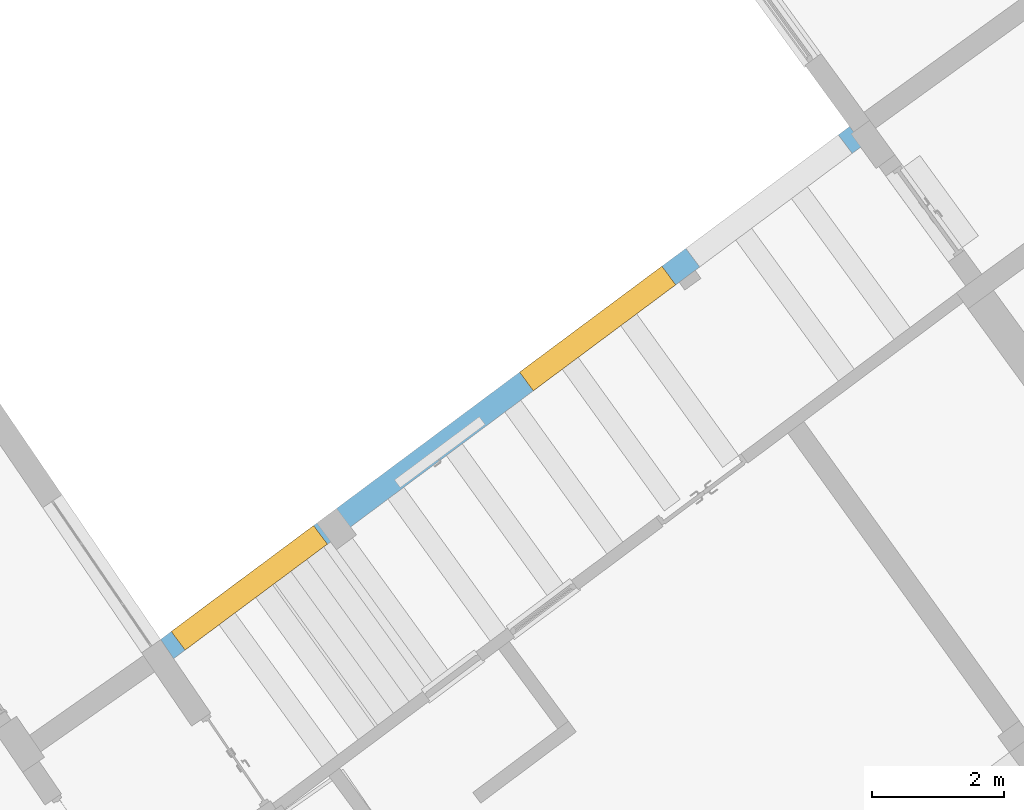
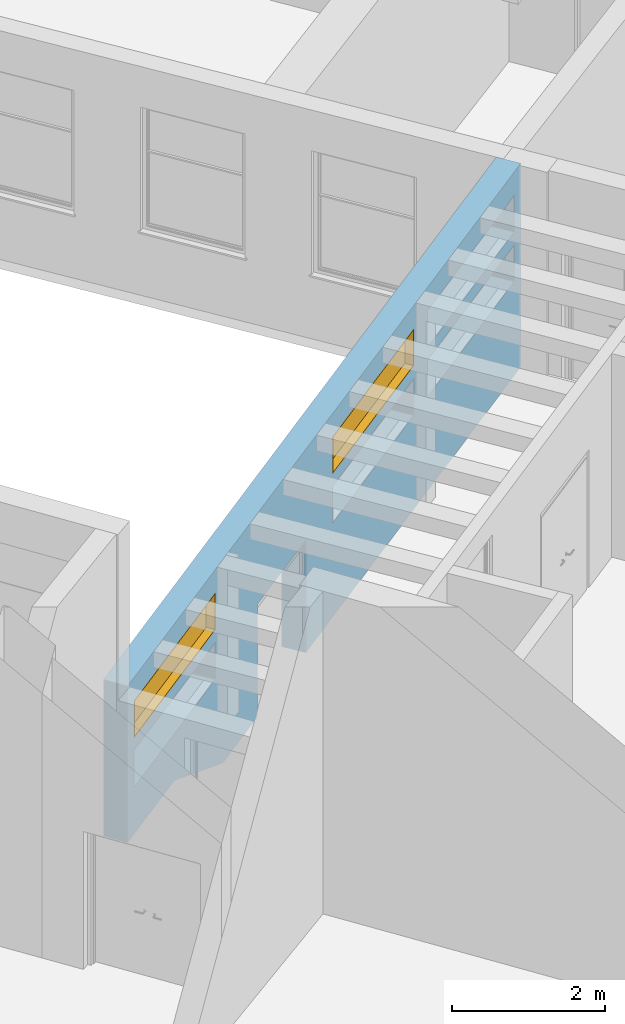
# One storey, part 142 of 157: 2 windows, 7 openings, plus 1 element that does not belong to this part.
"""IFC2X3 building model written with IfcOpenShell, lengths in millimetres."""

from ifc_helpers import new_model, entity, si_unit, converted_unit, derived_unit, direction, frame, frame_2d, origin, origin_2d_with_axis, place, context, subcontext, project, spatial, polyline, rectangle, outline, extrude, faceted_brep, source, transform, mapped, material, material_list, layer, layer_set, type_object, type_shapes, element, fill, save


model = new_model("IFC2X3")

# Units and contexts
model_context = context("Model", 3, precision=0.01, world=origin(), true_north=direction((6.123031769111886e-17, 1.0)))
body_context = subcontext(model_context, "Body", "Model", "MODEL_VIEW")
ifc_project = project(units=[si_unit("LENGTHUNIT", "METRE", prefix="MILLI"), si_unit("AREAUNIT", "SQUARE_METRE"), si_unit("VOLUMEUNIT", "CUBIC_METRE"), converted_unit("PLANEANGLEUNIT", "DEGREE", entity("IfcRatioMeasure", 0.017453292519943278), si_unit("PLANEANGLEUNIT", "RADIAN"), dimensions=[0, 0, 0, 0, 0, 0, 0]), si_unit("MASSUNIT", "GRAM", prefix="KILO"), derived_unit("MASSDENSITYUNIT", [(si_unit("MASSUNIT", "GRAM", prefix="KILO"), 1), (si_unit("LENGTHUNIT", "METRE"), -3)]), derived_unit("MOMENTOFINERTIAUNIT", [(si_unit("LENGTHUNIT", "METRE"), 4)]), si_unit("TIMEUNIT", "SECOND"), si_unit("FREQUENCYUNIT", "HERTZ"), si_unit("THERMODYNAMICTEMPERATUREUNIT", "DEGREE_CELSIUS"), derived_unit("THERMALTRANSMITTANCEUNIT", [(si_unit("MASSUNIT", "GRAM", prefix="KILO"), 1), (si_unit("THERMODYNAMICTEMPERATUREUNIT", "KELVIN"), -1), (si_unit("TIMEUNIT", "SECOND"), -3)]), derived_unit("THERMALCONDUCTANCEUNIT", [(si_unit("MASSUNIT", "GRAM", prefix="KILO"), 1), (si_unit("LENGTHUNIT", "METRE"), 1), (si_unit("THERMODYNAMICTEMPERATUREUNIT", "KELVIN"), -1), (si_unit("TIMEUNIT", "SECOND"), -3)]), derived_unit("VOLUMETRICFLOWRATEUNIT", [(si_unit("LENGTHUNIT", "METRE"), 3), (si_unit("TIMEUNIT", "SECOND"), -1)]), derived_unit("MASSFLOWRATEUNIT", [(si_unit("MASSUNIT", "GRAM", prefix="KILO"), 1), (si_unit("TIMEUNIT", "SECOND"), -1)]), derived_unit("ROTATIONALFREQUENCYUNIT", [(si_unit("TIMEUNIT", "SECOND"), -1)]), si_unit("ELECTRICCURRENTUNIT", "AMPERE"), si_unit("ELECTRICVOLTAGEUNIT", "VOLT"), si_unit("POWERUNIT", "WATT"), converted_unit("FORCEUNIT", "KIP", entity("IfcRatioMeasure", 2.088543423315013e-05), si_unit("FORCEUNIT", "NEWTON"), dimensions=[1, 1, -2, 0, 0, 0, 0]), si_unit("ILLUMINANCEUNIT", "LUX"), si_unit("LUMINOUSFLUXUNIT", "LUMEN"), si_unit("LUMINOUSINTENSITYUNIT", "CANDELA"), derived_unit("USERDEFINED", [(si_unit("MASSUNIT", "GRAM", prefix="KILO"), -1), (si_unit("LENGTHUNIT", "METRE"), -2), (si_unit("TIMEUNIT", "SECOND"), 3), (si_unit("LUMINOUSFLUXUNIT", "LUMEN"), 1)]), derived_unit("USERDEFINED", [(si_unit("MASSUNIT", "GRAM", prefix="KILO"), 1), (si_unit("LENGTHUNIT", "METRE"), 3), (si_unit("TIMEUNIT", "SECOND"), -3), (si_unit("ELECTRICCURRENTUNIT", "AMPERE"), -2)]), derived_unit("USERDEFINED", [(si_unit("LENGTHUNIT", "METRE"), 2), (si_unit("TIMEUNIT", "SECOND"), -2)]), derived_unit("SOUNDPOWERUNIT", [(si_unit("MASSUNIT", "GRAM", prefix="KILO"), 1), (si_unit("LENGTHUNIT", "METRE"), 2), (si_unit("TIMEUNIT", "SECOND"), -3)]), derived_unit("SOUNDPRESSUREUNIT", [(si_unit("MASSUNIT", "GRAM", prefix="KILO"), 1), (si_unit("LENGTHUNIT", "METRE"), -1), (si_unit("TIMEUNIT", "SECOND"), -2)]), derived_unit("LINEARVELOCITYUNIT", [(si_unit("LENGTHUNIT", "METRE"), 1), (si_unit("TIMEUNIT", "SECOND"), -1)]), si_unit("PRESSUREUNIT", "PASCAL"), derived_unit("USERDEFINED", [(si_unit("LENGTHUNIT", "METRE"), -2), (si_unit("MASSUNIT", "GRAM", prefix="KILO"), 1), (si_unit("TIMEUNIT", "SECOND"), -2)]), derived_unit("LINEARFORCEUNIT", [(si_unit("MASSUNIT", "GRAM", prefix="KILO"), 1), (si_unit("LENGTHUNIT", "METRE"), 1), (si_unit("TIMEUNIT", "SECOND"), -2), (si_unit("LENGTHUNIT", "METRE"), -1)]), derived_unit("PLANARFORCEUNIT", [(si_unit("MASSUNIT", "GRAM", prefix="KILO"), 1), (si_unit("LENGTHUNIT", "METRE"), 1), (si_unit("TIMEUNIT", "SECOND"), -2), (si_unit("LENGTHUNIT", "METRE"), -2)]), derived_unit("SPECIFICHEATCAPACITYUNIT", [(si_unit("LENGTHUNIT", "METRE"), 2), (si_unit("TIMEUNIT", "SECOND"), -2), (si_unit("THERMODYNAMICTEMPERATUREUNIT", "KELVIN"), -1)]), derived_unit("VAPORPERMEABILITYUNIT", [(si_unit("TIMEUNIT", "SECOND"), 1), (si_unit("LENGTHUNIT", "METRE"), -1)]), derived_unit("DYNAMICVISCOSITYUNIT", [(si_unit("MASSUNIT", "GRAM", prefix="KILO"), 1), (si_unit("LENGTHUNIT", "METRE"), -1), (si_unit("TIMEUNIT", "SECOND"), -1)]), derived_unit("THERMALEXPANSIONCOEFFICIENTUNIT", [(si_unit("THERMODYNAMICTEMPERATUREUNIT", "KELVIN"), -1)])], contexts=[model_context])

# Site, building, storey
site_placement = place(None, frame((0.0, 0.0, 0.0), z_axis=(0.0, 0.0, 1.0), x_axis=(0.8191520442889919, 0.5735764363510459, 0.0)))
site = spatial("IfcSite", under=ifc_project, at=site_placement, Name="Default", CompositionType="ELEMENT")
building_placement = place(site_placement, origin())
building = spatial("IfcBuilding", under=site, at=building_placement, CompositionType="ELEMENT")
storey_placement = place(building_placement, origin())
storey = spatial("IfcBuildingStorey", under=building, at=storey_placement, Name="1.EG +0.00", CompositionType="ELEMENT", Elevation=-4.331468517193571e-12)

# Wall, openings, windows
ifc_material_1 = material(Name="Analytical Wall Surface_CJC")
ifc_layer = layer(ifc_material_1, 350.0)
ifc_layer_set = layer_set([ifc_layer], Name="Basic Wall:Wand_Innen_35")
wall_type = type_object("IfcWallType", Name="Basic Wall:Wand_Innen_35", PredefinedType="STANDARD", material=ifc_layer_set)
wall_placement = place(storey_placement, frame((-204101.05348576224, 166996.005670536, -750.0), z_axis=(0.0, 0.0, 1.0), x_axis=(0.9995749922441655, 0.029151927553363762, 0.0)))
wall = element("IfcWall", 1, at=wall_placement, inside=storey, type_object=wall_type, Name="Basic Wall:Wand_Innen_35", ObjectType="Basic Wall:Wand_Innen_35", context=body_context, shape_type="Brep", body=[
    faceted_brep([(12984.138347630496, -175.0, 0.0), (12984.138347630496, -175.0, 3250.0), (11930.363742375, -175.0, 3250.0), (11630.346839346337, -175.0, 3250.0), (10880.30458177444, -175.0, 3250.0), (10580.287678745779, -175.0, 3250.0), (9815.893972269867, -175.0, 3250.0), (9515.854710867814, -175.0, 3250.0), (8715.750013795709, -175.0, 3250.0), (8415.710752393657, -175.0, 3250.0), (7615.606055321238, -175.0, 3250.0), (7315.566793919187, -175.0, 3250.0), (6533.797199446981, -175.0, 3250.0), (6233.757938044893, -175.0, 3250.0), (5433.653240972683, -175.0, 3250.0), (5133.613979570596, -175.0, 3250.0), (4333.509282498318, -175.0, 3250.0), (4033.4700210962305, -175.0, 3250.0), (3255.528447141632, -175.0, 3250.0), (2955.5004618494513, -175.0, 3250.0), (2205.5288961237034, -175.0, 3250.0), (1905.500757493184, -175.0, 3250.0), (1155.3068251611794, -175.0, 3250.0), (855.2816970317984, -175.0, 3250.0), (0.0, -175.0, 3250.0), (0.0, -175.0, 750.0), (1550.1638463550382, -175.0, 750.0), (3145.5153249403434, -175.0, 0.0), (4284.138347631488, -175.0, 0.0), (4284.138347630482, -175.0, 1800.0), (5884.138347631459, -175.0, 1800.0), (5884.138347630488, -175.0, 0.0), (9515.854710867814, -175.0, 0.0), (9815.893972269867, -175.0, 0.0), (2895.1186250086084, -175.0, 2090.0), (2895.1186250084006, -175.0, 1500.0), (215.11862500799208, -175.0, 1500.0), (215.11862500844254, -175.0, 2090.0), (9451.157462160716, -175.0, 2090.0), (9451.157462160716, -175.0, 1500.0), (6771.157462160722, -175.0, 1500.0), (6771.157462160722, -175.0, 2090.0), (12771.942690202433, -175.0, 2090.0), (12771.942690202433, -175.0, 1500.0), (9901.942690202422, -175.0, 1500.0), (9901.942690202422, -175.0, 2090.0), (12771.942690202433, -175.0, 2880.0), (12771.942690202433, -175.0, 2290.0), (9901.942690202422, -175.0, 2290.0), (9901.942690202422, -175.0, 2880.0), (9451.157462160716, -175.0, 2880.0), (9451.157462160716, -175.0, 2290.0), (6771.157462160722, -175.0, 2290.0), (6771.157462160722, -175.0, 2880.0), (2895.1186250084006, -175.0, 2880.0), (2895.1186250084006, -175.0, 2290.0), (215.1186250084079, -175.0, 2290.0), (215.1186250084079, -175.0, 2880.0), (12984.138347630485, 175.0, 3250.0), (12984.138347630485, 175.0, 0.0), (5884.138347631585, 175.0, 0.0), (5884.138347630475, 175.0, 1800.0), (4284.138347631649, 175.0, 1800.0), (4284.13834763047, 175.0, 0.0), (3145.515324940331, 175.0, 0.0), (1550.1638463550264, 175.0, 750.0), (14.668675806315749, 175.0, 750.0), (14.668675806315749, 175.0, 3250.0), (2895.118625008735, 175.0, 1500.0), (2895.118625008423, 175.0, 2090.0), (215.11862500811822, 175.0, 2090.0), (215.1186250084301, 175.0, 1500.0), (9451.157462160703, 175.0, 1500.0), (9451.157462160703, 175.0, 2090.0), (6771.15746216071, 175.0, 2090.0), (6771.15746216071, 175.0, 1500.0), (12771.942690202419, 175.0, 1500.0), (12771.942690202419, 175.0, 2090.0), (9901.94269020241, 175.0, 2090.0), (9901.94269020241, 175.0, 1500.0), (12771.942690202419, 175.0, 2290.0), (12771.942690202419, 175.0, 2880.0), (9901.94269020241, 175.0, 2880.0), (9901.94269020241, 175.0, 2290.0), (9451.157462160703, 175.0, 2290.0), (9451.157462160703, 175.0, 2880.0), (6771.15746216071, 175.0, 2880.0), (6771.15746216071, 175.0, 2290.0), (2895.1186250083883, 175.0, 2290.0), (2895.1186250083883, 175.0, 2880.0), (215.11862500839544, 175.0, 2880.0), (215.11862500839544, 175.0, 2290.0)], [[[0, 1, 2, 3, 4, 5, 6, 7, 8, 9, 10, 11, 12, 13, 14, 15, 16, 17, 18, 19, 20, 21, 22, 23, 24, 25, 26, 27, 28, 29, 30, 31, 32, 33], [34, 35, 36, 37], [38, 39, 40, 41], [42, 43, 44, 45], [46, 47, 48, 49], [50, 51, 52, 53], [54, 55, 56, 57]], [[58, 59, 60, 61, 62, 63, 64, 65, 66, 67], [68, 69, 70, 71], [72, 73, 74, 75], [76, 77, 78, 79], [80, 81, 82, 83], [84, 85, 86, 87], [88, 89, 90, 91]], [[25, 24, 67, 66]], [[27, 64, 63, 28]], [[1, 0, 59, 58]], [[24, 23, 22, 21, 20, 19, 18, 17, 16, 15, 14, 13, 12, 11, 10, 9, 8, 7, 6, 5, 4, 3, 2, 1, 58, 67]], [[26, 25, 66, 65]], [[27, 26, 65, 64]], [[62, 29, 28, 63]], [[29, 62, 61, 30]], [[30, 61, 60, 31]], [[68, 35, 34, 69]], [[69, 34, 37, 70]], [[70, 37, 36, 71]], [[35, 68, 71, 36]], [[73, 72, 39, 38]], [[74, 73, 38, 41]], [[75, 74, 41, 40]], [[72, 75, 40, 39]], [[77, 76, 43, 42]], [[78, 77, 42, 45]], [[79, 78, 45, 44]], [[76, 79, 44, 43]], [[81, 80, 47, 46]], [[82, 81, 46, 49]], [[83, 82, 49, 48]], [[80, 83, 48, 47]], [[85, 84, 51, 50]], [[86, 85, 50, 53]], [[87, 86, 53, 52]], [[84, 87, 52, 51]], [[89, 88, 55, 54]], [[90, 89, 54, 57]], [[91, 90, 57, 56]], [[88, 91, 56, 55]], [[59, 0, 33, 32, 31, 60]]]),
])
opening_1_placement = place(wall_placement, frame((5884.138347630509, 175.0, -400.0)))
element("IfcOpeningElement", 2, at=opening_1_placement, cuts=wall, Name="M_Door-Passage-Double-Flush:150x210:1", ObjectType="Opening", context=body_context, shape_type="SweptSolid", body=[
    extrude(rectangle(XDim=2200.0, YDim=1599.999999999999, at=frame_2d((1100.0, 799.9999999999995), x_axis=(1.0, 0.0))), frame((0.0, 0.0, 0.0), z_axis=(0.0, -1.0, 0.0), x_axis=(0.0, 0.0, 1.0)), (0.0, 0.0, 1.0), 350.0),
])
opening_2_placement = place(wall_placement, frame((2895.1186250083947, 175.0, 1500.0)))
element("IfcOpeningElement", 3, at=opening_2_placement, cuts=wall, Name="WINDOW_Glass_Block:WINDOW_Glass_Block_14x3:1", ObjectType="Opening", context=body_context, shape_type="SweptSolid", body=[
    extrude(rectangle(XDim=589.9999999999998, YDim=2679.999999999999, at=frame_2d((294.99999999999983, 1339.9999999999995), x_axis=(1.0, 0.0))), frame((0.0, 0.0, 0.0), z_axis=(0.0, -1.0, 0.0), x_axis=(0.0, 0.0, 1.0)), (0.0, 0.0, 1.0), 350.0),
])
opening_3_placement = place(wall_placement, frame((9451.157462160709, 175.0, 1500.0)))
element("IfcOpeningElement", 4, at=opening_3_placement, cuts=wall, Name="WINDOW_Glass_Block:WINDOW_Glass_Block_14x3:1", ObjectType="Opening", context=body_context, shape_type="SweptSolid", body=[
    extrude(rectangle(XDim=589.9999999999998, YDim=2679.999999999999, at=frame_2d((294.99999999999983, 1339.9999999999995), x_axis=(1.0, 0.0))), frame((0.0, 0.0, 0.0), z_axis=(0.0, -1.0, 0.0), x_axis=(0.0, 0.0, 1.0)), (0.0, 0.0, 1.0), 350.0),
])
opening_4_placement = place(wall_placement, frame((12771.942690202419, 175.0, 1500.0)))
element("IfcOpeningElement", 5, at=opening_4_placement, cuts=wall, Name="WINDOW_Glass_Block:WINDOW_Glass_Block_15x3:1", ObjectType="Opening", context=body_context, shape_type="SweptSolid", body=[
    extrude(rectangle(XDim=589.9999999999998, YDim=2869.9999999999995, at=frame_2d((294.99999999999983, 1435.0000000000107), x_axis=(1.0, 0.0))), frame((0.0, 0.0, 0.0), z_axis=(0.0, -1.0, 0.0), x_axis=(0.0, 0.0, 1.0)), (0.0, 0.0, 1.0), 350.0),
])
opening_5_placement = place(wall_placement, frame((2895.1186250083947, 175.0, 2290.0)))
opening_5 = element("IfcOpeningElement", 6, at=opening_5_placement, cuts=wall, Name="WINDOW_Glass_Block:WINDOW_Glass_Block_14x3:1", ObjectType="Opening", context=body_context, shape_type="SweptSolid", body=[
    extrude(rectangle(XDim=589.9999999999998, YDim=2679.999999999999, at=frame_2d((294.99999999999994, 1339.9999999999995), x_axis=(1.0, 0.0))), frame((0.0, 0.0, 0.0), z_axis=(0.0, -1.0, 0.0), x_axis=(0.0, 0.0, 1.0)), (0.0, 0.0, 1.0), 350.0),
])
opening_6_placement = place(wall_placement, frame((9451.157462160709, 175.0, 2290.0)))
opening_6 = element("IfcOpeningElement", 7, at=opening_6_placement, cuts=wall, Name="WINDOW_Glass_Block:WINDOW_Glass_Block_14x3:1", ObjectType="Opening", context=body_context, shape_type="SweptSolid", body=[
    extrude(rectangle(XDim=589.9999999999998, YDim=2679.999999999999, at=frame_2d((294.99999999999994, 1339.9999999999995), x_axis=(1.0, 0.0))), frame((0.0, 0.0, 0.0), z_axis=(0.0, -1.0, 0.0), x_axis=(0.0, 0.0, 1.0)), (0.0, 0.0, 1.0), 350.0),
])
opening_7_placement = place(wall_placement, frame((12771.942690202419, 175.0, 2290.0)))
element("IfcOpeningElement", 8, at=opening_7_placement, cuts=wall, Name="WINDOW_Glass_Block:WINDOW_Glass_Block_15x3:1", ObjectType="Opening", context=body_context, shape_type="SweptSolid", body=[
    extrude(rectangle(XDim=589.9999999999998, YDim=2869.9999999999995, at=frame_2d((294.99999999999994, 1435.0000000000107), x_axis=(1.0, 0.0))), frame((0.0, 0.0, 0.0), z_axis=(0.0, -1.0, 0.0), x_axis=(0.0, 0.0, 1.0)), (0.0, 0.0, 1.0), 350.0),
])
ifc_material_2 = material(Name="Glass")
ifc_material_3 = material(Name="Wood")
ifc_material_list = material_list([ifc_material_2, ifc_material_3])
window_style = type_object("IfcWindowStyle", Name="WINDOW_Glass_Block:WINDOW_Glass_Block_14x3", ConstructionType="NOTDEFINED", OperationType="NOTDEFINED", ParameterTakesPrecedence=False, Sizeable=False, material=ifc_material_list)
shared_shape = source(origin(), body_context, "Body", "SweptSolid", [
    extrude(rectangle(XDim=190.0, YDim=100.0, at=frame_2d((6.394884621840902e-14, 0.0), x_axis=(1.0, 0.0))), frame((2385.0, 175.0, 200.0), z_axis=(0.0, 0.0, 1.0), x_axis=(-1.0, 0.0, 0.0)), (0.0, 0.0, 1.0), 189.99999999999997),
    extrude(rectangle(XDim=190.0, YDim=100.0, at=frame_2d((-6.394884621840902e-14, 0.0), x_axis=(1.0, 0.0))), frame((2195.0, 175.0, 200.0), z_axis=(0.0, 0.0, 1.0), x_axis=(-1.0, 0.0, 0.0)), (0.0, 0.0, 1.0), 189.99999999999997),
    extrude(rectangle(XDim=190.0, YDim=100.0, at=frame_2d((6.394884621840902e-14, 0.0), x_axis=(1.0, 0.0))), frame((2005.0, 175.0, 200.0), z_axis=(0.0, 0.0, 1.0), x_axis=(-1.0, 0.0, 0.0)), (0.0, 0.0, 1.0), 189.99999999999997),
    extrude(rectangle(XDim=190.0, YDim=100.0, at=frame_2d((-6.394884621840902e-14, 0.0), x_axis=(1.0, 0.0))), frame((1815.0, 175.0, 200.0), z_axis=(0.0, 0.0, 1.0), x_axis=(-1.0, 0.0, 0.0)), (0.0, 0.0, 1.0), 189.99999999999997),
    extrude(rectangle(XDim=189.99999999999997, YDim=100.0, at=origin_2d_with_axis()), frame((1625.0, 175.0, 200.0), z_axis=(0.0, 0.0, 1.0), x_axis=(-1.0, 0.0, 0.0)), (0.0, 0.0, 1.0), 189.99999999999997),
    extrude(rectangle(XDim=190.00000000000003, YDim=100.0, at=origin_2d_with_axis()), frame((1435.0, 175.0, 200.0), z_axis=(0.0, 0.0, 1.0), x_axis=(-1.0, 0.0, 0.0)), (0.0, 0.0, 1.0), 189.99999999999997),
    extrude(rectangle(XDim=190.0, YDim=100.0, at=frame_2d((-2.1316282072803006e-14, 0.0), x_axis=(1.0, 0.0))), frame((1245.0, 175.0, 200.0), z_axis=(0.0, 0.0, 1.0), x_axis=(-1.0, 0.0, 0.0)), (0.0, 0.0, 1.0), 189.99999999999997),
    extrude(rectangle(XDim=190.0, YDim=100.0, at=frame_2d((-2.1316282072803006e-14, 0.0), x_axis=(1.0, 0.0))), frame((1055.0, 175.0, 200.0), z_axis=(0.0, 0.0, 1.0), x_axis=(-1.0, 0.0, 0.0)), (0.0, 0.0, 1.0), 189.99999999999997),
    extrude(rectangle(XDim=190.0, YDim=100.0, at=frame_2d((-6.394884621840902e-14, 0.0), x_axis=(1.0, 0.0))), frame((865.0, 175.0, 200.0), z_axis=(0.0, 0.0, 1.0), x_axis=(-1.0, 0.0, 0.0)), (0.0, 0.0, 1.0), 189.99999999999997),
    extrude(rectangle(XDim=190.0, YDim=100.0, at=frame_2d((6.394884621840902e-14, 0.0), x_axis=(1.0, 0.0))), frame((675.0, 175.0, 200.0), z_axis=(0.0, 0.0, 1.0), x_axis=(-1.0, 0.0, 0.0)), (0.0, 0.0, 1.0), 189.99999999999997),
    extrude(rectangle(XDim=190.0, YDim=100.0, at=frame_2d((-6.394884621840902e-14, 0.0), x_axis=(1.0, 0.0))), frame((485.0, 175.0, 200.0), z_axis=(0.0, 0.0, 1.0), x_axis=(-1.0, 0.0, 0.0)), (0.0, 0.0, 1.0), 189.99999999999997),
    extrude(rectangle(XDim=190.0, YDim=100.0, at=frame_2d((-6.394884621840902e-14, 0.0), x_axis=(1.0, 0.0))), frame((295.0, 175.0, 200.0), z_axis=(0.0, 0.0, 1.0), x_axis=(-1.0, 0.0, 0.0)), (0.0, 0.0, 1.0), 189.99999999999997),
    extrude(rectangle(XDim=190.0000000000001, YDim=100.0, at=origin_2d_with_axis()), frame((2575.0, 175.0, 200.0), z_axis=(0.0, 0.0, 1.0), x_axis=(-1.0, 0.0, 0.0)), (0.0, 0.0, 1.0), 189.99999999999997),
    extrude(rectangle(XDim=190.0, YDim=100.0, at=frame_2d((6.394884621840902e-14, 0.0), x_axis=(1.0, 0.0))), frame((105.0, 175.0, 200.0), z_axis=(0.0, 0.0, 1.0), x_axis=(-1.0, 0.0, 0.0)), (0.0, 0.0, 1.0), 189.99999999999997),
    extrude(rectangle(XDim=190.0, YDim=100.0, at=frame_2d((6.394884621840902e-14, 0.0), x_axis=(1.0, 0.0))), frame((2385.0, 175.0, 390.0), z_axis=(0.0, 0.0, 1.0), x_axis=(-1.0, 0.0, 0.0)), (0.0, 0.0, 1.0), 190.0000000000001),
    extrude(rectangle(XDim=190.0, YDim=100.0, at=frame_2d((-6.394884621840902e-14, 0.0), x_axis=(1.0, 0.0))), frame((2195.0, 175.0, 390.0), z_axis=(0.0, 0.0, 1.0), x_axis=(-1.0, 0.0, 0.0)), (0.0, 0.0, 1.0), 190.0000000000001),
    extrude(rectangle(XDim=190.0, YDim=100.0, at=frame_2d((6.394884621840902e-14, 0.0), x_axis=(1.0, 0.0))), frame((2005.0, 175.0, 390.0), z_axis=(0.0, 0.0, 1.0), x_axis=(-1.0, 0.0, 0.0)), (0.0, 0.0, 1.0), 190.0000000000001),
    extrude(rectangle(XDim=190.0, YDim=100.0, at=frame_2d((-6.394884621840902e-14, 0.0), x_axis=(1.0, 0.0))), frame((1815.0, 175.0, 390.0), z_axis=(0.0, 0.0, 1.0), x_axis=(-1.0, 0.0, 0.0)), (0.0, 0.0, 1.0), 190.0000000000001),
    extrude(rectangle(XDim=189.99999999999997, YDim=100.0, at=origin_2d_with_axis()), frame((1625.0, 175.0, 390.0), z_axis=(0.0, 0.0, 1.0), x_axis=(-1.0, 0.0, 0.0)), (0.0, 0.0, 1.0), 190.0000000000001),
    extrude(rectangle(XDim=190.00000000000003, YDim=100.0, at=origin_2d_with_axis()), frame((1435.0, 175.0, 390.0), z_axis=(0.0, 0.0, 1.0), x_axis=(-1.0, 0.0, 0.0)), (0.0, 0.0, 1.0), 190.0000000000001),
    extrude(rectangle(XDim=190.0, YDim=100.0, at=frame_2d((-2.1316282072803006e-14, 0.0), x_axis=(1.0, 0.0))), frame((1245.0, 175.0, 390.0), z_axis=(0.0, 0.0, 1.0), x_axis=(-1.0, 0.0, 0.0)), (0.0, 0.0, 1.0), 190.0000000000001),
    extrude(rectangle(XDim=190.0, YDim=100.0, at=frame_2d((-2.1316282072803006e-14, 0.0), x_axis=(1.0, 0.0))), frame((1055.0, 175.0, 390.0), z_axis=(0.0, 0.0, 1.0), x_axis=(-1.0, 0.0, 0.0)), (0.0, 0.0, 1.0), 190.0000000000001),
    extrude(rectangle(XDim=190.0, YDim=100.0, at=frame_2d((-6.394884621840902e-14, 0.0), x_axis=(1.0, 0.0))), frame((865.0, 175.0, 390.0), z_axis=(0.0, 0.0, 1.0), x_axis=(-1.0, 0.0, 0.0)), (0.0, 0.0, 1.0), 190.0000000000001),
    extrude(rectangle(XDim=190.0, YDim=100.0, at=frame_2d((6.394884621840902e-14, 0.0), x_axis=(1.0, 0.0))), frame((675.0, 175.0, 390.0), z_axis=(0.0, 0.0, 1.0), x_axis=(-1.0, 0.0, 0.0)), (0.0, 0.0, 1.0), 190.0000000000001),
    extrude(rectangle(XDim=190.0, YDim=100.0, at=frame_2d((-6.394884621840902e-14, 0.0), x_axis=(1.0, 0.0))), frame((485.0, 175.0, 390.0), z_axis=(0.0, 0.0, 1.0), x_axis=(-1.0, 0.0, 0.0)), (0.0, 0.0, 1.0), 190.0000000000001),
    extrude(rectangle(XDim=190.0, YDim=100.0, at=frame_2d((-6.394884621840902e-14, 0.0), x_axis=(1.0, 0.0))), frame((295.0, 175.0, 390.0), z_axis=(0.0, 0.0, 1.0), x_axis=(-1.0, 0.0, 0.0)), (0.0, 0.0, 1.0), 190.0000000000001),
    extrude(rectangle(XDim=190.0000000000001, YDim=100.0, at=origin_2d_with_axis()), frame((2575.0, 175.0, 390.0), z_axis=(0.0, 0.0, 1.0), x_axis=(-1.0, 0.0, 0.0)), (0.0, 0.0, 1.0), 190.0000000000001),
    extrude(rectangle(XDim=190.0, YDim=100.0, at=frame_2d((6.394884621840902e-14, 0.0), x_axis=(1.0, 0.0))), frame((105.0, 175.0, 390.0), z_axis=(0.0, 0.0, 1.0), x_axis=(-1.0, 0.0, 0.0)), (0.0, 0.0, 1.0), 190.0000000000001),
    extrude(rectangle(XDim=190.0, YDim=100.0, at=frame_2d((6.394884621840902e-14, 0.0), x_axis=(1.0, 0.0))), frame((2385.0, 175.0, 10.0), z_axis=(0.0, 0.0, 1.0), x_axis=(-1.0, 0.0, 0.0)), (0.0, 0.0, 1.0), 189.99999999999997),
    extrude(rectangle(XDim=190.0, YDim=100.0, at=frame_2d((-6.394884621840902e-14, 0.0), x_axis=(1.0, 0.0))), frame((2195.0, 175.0, 10.0), z_axis=(0.0, 0.0, 1.0), x_axis=(-1.0, 0.0, 0.0)), (0.0, 0.0, 1.0), 189.99999999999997),
    extrude(rectangle(XDim=190.0, YDim=100.0, at=frame_2d((6.394884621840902e-14, 0.0), x_axis=(1.0, 0.0))), frame((2005.0, 175.0, 10.0), z_axis=(0.0, 0.0, 1.0), x_axis=(-1.0, 0.0, 0.0)), (0.0, 0.0, 1.0), 189.99999999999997),
    extrude(rectangle(XDim=190.0, YDim=100.0, at=frame_2d((-6.394884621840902e-14, 0.0), x_axis=(1.0, 0.0))), frame((1815.0, 175.0, 10.0), z_axis=(0.0, 0.0, 1.0), x_axis=(-1.0, 0.0, 0.0)), (0.0, 0.0, 1.0), 189.99999999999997),
    extrude(rectangle(XDim=189.99999999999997, YDim=100.0, at=origin_2d_with_axis()), frame((1625.0, 175.0, 10.0), z_axis=(0.0, 0.0, 1.0), x_axis=(-1.0, 0.0, 0.0)), (0.0, 0.0, 1.0), 189.99999999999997),
    extrude(rectangle(XDim=190.00000000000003, YDim=100.0, at=origin_2d_with_axis()), frame((1435.0, 175.0, 10.0), z_axis=(0.0, 0.0, 1.0), x_axis=(-1.0, 0.0, 0.0)), (0.0, 0.0, 1.0), 189.99999999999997),
    extrude(rectangle(XDim=190.0, YDim=100.0, at=frame_2d((-2.1316282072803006e-14, 0.0), x_axis=(1.0, 0.0))), frame((1245.0, 175.0, 10.0), z_axis=(0.0, 0.0, 1.0), x_axis=(-1.0, 0.0, 0.0)), (0.0, 0.0, 1.0), 189.99999999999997),
    extrude(rectangle(XDim=190.0, YDim=100.0, at=frame_2d((-2.1316282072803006e-14, 0.0), x_axis=(1.0, 0.0))), frame((1055.0, 175.0, 10.0), z_axis=(0.0, 0.0, 1.0), x_axis=(-1.0, 0.0, 0.0)), (0.0, 0.0, 1.0), 189.99999999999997),
    extrude(rectangle(XDim=190.0, YDim=100.0, at=frame_2d((-6.394884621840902e-14, 0.0), x_axis=(1.0, 0.0))), frame((865.0, 175.0, 10.0), z_axis=(0.0, 0.0, 1.0), x_axis=(-1.0, 0.0, 0.0)), (0.0, 0.0, 1.0), 189.99999999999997),
    extrude(rectangle(XDim=190.0, YDim=100.0, at=frame_2d((6.394884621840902e-14, 0.0), x_axis=(1.0, 0.0))), frame((675.0, 175.0, 10.0), z_axis=(0.0, 0.0, 1.0), x_axis=(-1.0, 0.0, 0.0)), (0.0, 0.0, 1.0), 189.99999999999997),
    extrude(rectangle(XDim=190.0, YDim=100.0, at=frame_2d((-6.394884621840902e-14, 0.0), x_axis=(1.0, 0.0))), frame((485.0, 175.0, 10.0), z_axis=(0.0, 0.0, 1.0), x_axis=(-1.0, 0.0, 0.0)), (0.0, 0.0, 1.0), 189.99999999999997),
    extrude(rectangle(XDim=190.0, YDim=100.0, at=frame_2d((-6.394884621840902e-14, 0.0), x_axis=(1.0, 0.0))), frame((295.0, 175.0, 10.0), z_axis=(0.0, 0.0, 1.0), x_axis=(-1.0, 0.0, 0.0)), (0.0, 0.0, 1.0), 189.99999999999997),
    extrude(rectangle(XDim=190.0000000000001, YDim=100.0, at=origin_2d_with_axis()), frame((2575.0, 175.0, 10.0), z_axis=(0.0, 0.0, 1.0), x_axis=(-1.0, 0.0, 0.0)), (0.0, 0.0, 1.0), 189.99999999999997),
    extrude(rectangle(XDim=190.0, YDim=100.0, at=frame_2d((6.394884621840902e-14, 0.0), x_axis=(1.0, 0.0))), frame((105.0, 175.0, 10.0), z_axis=(0.0, 0.0, 1.0), x_axis=(-1.0, 0.0, 0.0)), (0.0, 0.0, 1.0), 189.99999999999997),
    extrude(outline(polyline([(-295.0, -1340.0), (295.0, -1340.0), (295.0, 1340.0), (-295.0, 1340.0), (-295.0, -1340.0)]), holes=[polyline([(-285.0, -1330.0), (-285.0, 1330.0), (285.0, 1330.0), (285.0, -1330.0), (-285.0, -1330.0)])]), frame((1340.0, 0.0, 295.0), z_axis=(0.0, 1.0, 0.0), x_axis=(0.0, 0.0, -1.0)), (0.0, 0.0, 1.0), 350.0),
])
type_shapes(window_style, [shared_shape])
window_1_placement = place(opening_5_placement, frame((0.0, 0.0, 0.0), z_axis=(0.0, 0.0, 1.0), x_axis=(-1.0, 0.0, 0.0)))
window_1 = element("IfcWindow", 9, at=window_1_placement, inside=storey, type_object=window_style, material=ifc_material_list, Name="WINDOW_Glass_Block:WINDOW_Glass_Block_14x3", ObjectType="WINDOW_Glass_Block:WINDOW_Glass_Block_14x3", OverallHeight=589.9999999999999, OverallWidth=2679.999999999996, context=body_context, shape_type="MappedRepresentation", body=[
    mapped(shared_shape, transform((0.0, 0.0, 0.0), scale=1.0)),
])
fill(opening_5, window_1)
window_2_placement = place(opening_6_placement, frame((0.0, 0.0, 0.0), z_axis=(0.0, 0.0, 1.0), x_axis=(-1.0, 0.0, 0.0)))
window_2 = element("IfcWindow", 10, at=window_2_placement, inside=storey, type_object=window_style, material=ifc_material_list, Name="WINDOW_Glass_Block:WINDOW_Glass_Block_14x3", ObjectType="WINDOW_Glass_Block:WINDOW_Glass_Block_14x3", OverallHeight=589.9999999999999, OverallWidth=2679.999999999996, context=body_context, shape_type="MappedRepresentation", body=[
    mapped(shared_shape, transform((0.0, 0.0, 0.0), scale=1.0)),
])
fill(opening_6, window_2)

save(model, "model.ifc")
